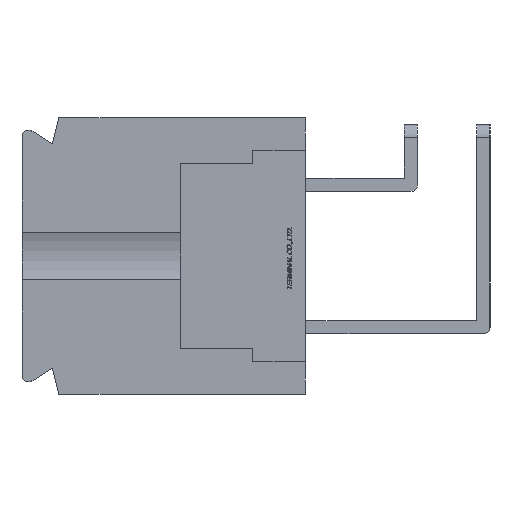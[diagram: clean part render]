
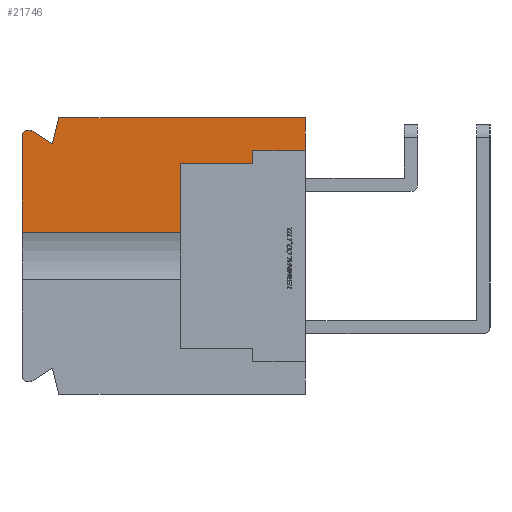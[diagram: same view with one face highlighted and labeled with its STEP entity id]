
A CAD part, left-side view. The second image highlights one B-rep face of the part: STEP entity #21746.
In plain terms, the highlighted planar face has unit normal (-1, 0, 0).
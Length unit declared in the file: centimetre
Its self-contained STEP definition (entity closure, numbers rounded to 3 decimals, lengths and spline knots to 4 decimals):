
#548=CIRCLE('',#36770,0.05);
#1121=VECTOR('',#24132,1.);
#1122=VECTOR('',#24133,1.);
#1123=VECTOR('',#24134,1.);
#1124=VECTOR('',#24135,1.);
#1125=VECTOR('',#24136,1.);
#1126=VECTOR('',#24137,1.);
#1127=VECTOR('',#24138,1.);
#1128=VECTOR('',#24139,1.);
#1129=VECTOR('',#24142,1.);
#1130=VECTOR('',#24143,1.);
#3744=LINE('',#29037,#1121);
#3745=LINE('',#29040,#1122);
#3746=LINE('',#29042,#1123);
#3747=LINE('',#29044,#1124);
#3748=LINE('',#29046,#1125);
#3749=LINE('',#29048,#1126);
#3750=LINE('',#29050,#1127);
#3751=LINE('',#29052,#1128);
#3752=LINE('',#29056,#1129);
#3753=LINE('',#29058,#1130);
#6380=VERTEX_POINT('',#29038);
#6381=VERTEX_POINT('',#29039);
#6382=VERTEX_POINT('',#29041);
#6383=VERTEX_POINT('',#29043);
#6384=VERTEX_POINT('',#29045);
#6385=VERTEX_POINT('',#29047);
#6386=VERTEX_POINT('',#29049);
#6387=VERTEX_POINT('',#29051);
#6388=VERTEX_POINT('',#29053);
#6389=VERTEX_POINT('',#29055);
#6390=VERTEX_POINT('',#29057);
#8807=EDGE_CURVE('',#6380,#6381,#3744,.T.);
#8808=EDGE_CURVE('',#6382,#6380,#3745,.T.);
#8809=EDGE_CURVE('',#6383,#6382,#3746,.T.);
#8810=EDGE_CURVE('',#6384,#6383,#3747,.T.);
#8811=EDGE_CURVE('',#6385,#6384,#3748,.T.);
#8812=EDGE_CURVE('',#6386,#6385,#3749,.T.);
#8813=EDGE_CURVE('',#6387,#6386,#3750,.T.);
#8814=EDGE_CURVE('',#6388,#6387,#3751,.T.);
#8815=EDGE_CURVE('',#6389,#6388,#548,.T.);
#8816=EDGE_CURVE('',#6390,#6389,#3752,.T.);
#8817=EDGE_CURVE('',#6390,#6381,#3753,.T.);
#12319=ORIENTED_EDGE('',*,*,#8807,.F.);
#12320=ORIENTED_EDGE('',*,*,#8808,.F.);
#12321=ORIENTED_EDGE('',*,*,#8809,.F.);
#12322=ORIENTED_EDGE('',*,*,#8810,.F.);
#12323=ORIENTED_EDGE('',*,*,#8811,.F.);
#12324=ORIENTED_EDGE('',*,*,#8812,.F.);
#12325=ORIENTED_EDGE('',*,*,#8813,.F.);
#12326=ORIENTED_EDGE('',*,*,#8814,.F.);
#12327=ORIENTED_EDGE('',*,*,#8815,.F.);
#12328=ORIENTED_EDGE('',*,*,#8816,.F.);
#12329=ORIENTED_EDGE('',*,*,#8817,.T.);
#18960=EDGE_LOOP('',(#12319,#12320,#12321,#12322,#12323,#12324,#12325,#12326,
#12327,#12328,#12329));
#20358=FACE_BOUND('',#18960,.T.);
#21746=ADVANCED_FACE('',(#20358),#22999,.F.);
#22999=PLANE('',#36769);
#24131=DIRECTION('',(1.,0.,0.));
#24132=DIRECTION('',(0.,0.,-1.));
#24133=DIRECTION('',(0.,1.,0.));
#24134=DIRECTION('',(0.,0.,-1.));
#24135=DIRECTION('',(0.,1.,0.));
#24136=DIRECTION('',(0.,0.,-1.));
#24137=DIRECTION('',(0.,-1.,0.));
#24138=DIRECTION('',(0.,-0.243,0.97));
#24139=DIRECTION('',(0.,-0.844,-0.536));
#24140=DIRECTION('',(1.,0.,0.));
#24141=DIRECTION('',(0.,0.,-0.05));
#24142=DIRECTION('',(0.,0.,1.));
#24143=DIRECTION('',(0.,-1.,0.));
#29036=CARTESIAN_POINT('',(-1.1,1.082,0.));
#29037=CARTESIAN_POINT('',(-1.1,0.95,-0.7));
#29038=CARTESIAN_POINT('',(-1.1,0.95,0.7));
#29039=CARTESIAN_POINT('',(-1.1,0.95,0.1809));
#29040=CARTESIAN_POINT('',(-1.1,0.95,0.7));
#29041=CARTESIAN_POINT('',(-1.1,0.4,0.7));
#29042=CARTESIAN_POINT('',(-1.1,0.4,0.7));
#29043=CARTESIAN_POINT('',(-1.1,0.4,0.8));
#29044=CARTESIAN_POINT('',(-1.1,0.4,0.8));
#29045=CARTESIAN_POINT('',(-1.1,0.,0.8));
#29046=CARTESIAN_POINT('',(-1.1,0.,1.05));
#29047=CARTESIAN_POINT('',(-1.1,0.,1.05));
#29048=CARTESIAN_POINT('',(-1.1,1.87,1.05));
#29049=CARTESIAN_POINT('',(-1.1,1.87,1.05));
#29050=CARTESIAN_POINT('',(-1.1,1.92,0.85));
#29051=CARTESIAN_POINT('',(-1.1,1.92,0.85));
#29052=CARTESIAN_POINT('',(-1.1,2.0742,0.9478));
#29053=CARTESIAN_POINT('',(-1.1,2.0742,0.9478));
#29054=CARTESIAN_POINT('',(-1.1,2.1,0.905));
#29055=CARTESIAN_POINT('',(-1.1,2.15,0.905));
#29056=CARTESIAN_POINT('',(-1.1,2.15,-0.905));
#29057=CARTESIAN_POINT('',(-1.1,2.15,0.1809));
#29058=CARTESIAN_POINT('',(-1.1,1.55,0.1809));
#36769=AXIS2_PLACEMENT_3D('',#29036,#24131,$);
#36770=AXIS2_PLACEMENT_3D('',#29054,#24140,#24141);
